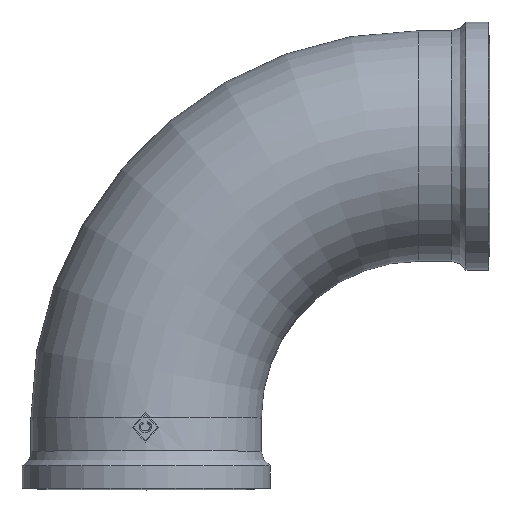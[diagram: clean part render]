
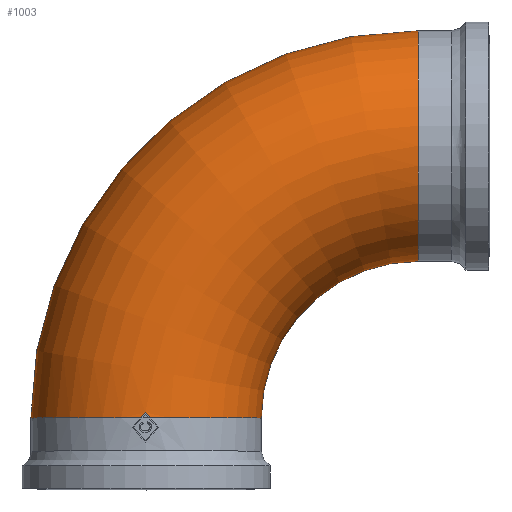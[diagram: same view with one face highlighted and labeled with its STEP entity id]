
A CAD part, top view. The second image highlights one B-rep face of the part: STEP entity #1003.
In plain terms, the highlighted toroidal (fillet/blend) face has major radius 80.7 mm and minor radius 34.2 mm.
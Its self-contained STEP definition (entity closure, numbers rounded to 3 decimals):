
#351=CARTESIAN_POINT('',(1.18,21.3,34.18));
#352=VERTEX_POINT('',#351);
#360=CARTESIAN_POINT('',(-0.239,22.877,34.199));
#361=VERTEX_POINT('',#360);
#362=CARTESIAN_POINT('',(-0.239,22.877,34.199));
#363=CARTESIAN_POINT('',(0.036,22.572,34.201));
#364=CARTESIAN_POINT('',(0.307,22.27,34.2));
#365=CARTESIAN_POINT('',(0.585,21.962,34.195));
#366=CARTESIAN_POINT('',(0.782,21.743,34.192));
#367=CARTESIAN_POINT('',(0.98,21.522,34.187));
#368=CARTESIAN_POINT('',(1.18,21.3,34.18));
#369=B_SPLINE_CURVE_WITH_KNOTS('',3,(#362,#363,#364,#365,#366,#367,#368),.UNSPECIFIED.,.F.,.U.,(4,3,4),(38.941,39.064,39.15),.UNSPECIFIED.);
#370=EDGE_CURVE('',#361,#352,#369,.T.);
#389=CARTESIAN_POINT('',(-1.658,21.3,34.16));
#390=VERTEX_POINT('',#389);
#391=CARTESIAN_POINT('',(-1.658,21.3,34.16));
#392=CARTESIAN_POINT('',(-1.177,21.834,34.183));
#393=CARTESIAN_POINT('',(-0.704,22.36,34.196));
#394=CARTESIAN_POINT('',(-0.239,22.877,34.199));
#395=B_SPLINE_CURVE_WITH_KNOTS('',3,(#391,#392,#393,#394),.UNSPECIFIED.,.F.,.U.,(4,4),(38.344,38.551),.UNSPECIFIED.);
#396=EDGE_CURVE('',#390,#361,#395,.T.);
#976=CARTESIAN_POINT('',(80.7,21.3,0.0));
#977=DIRECTION('',(0.0,0.0,-1.0));
#978=DIRECTION('',(-1.0,0.0,0.0));
#979=AXIS2_PLACEMENT_3D('',#976,#977,#978);
#980=TOROIDAL_SURFACE('',#979,80.7,34.2);
#981=ORIENTED_EDGE('',*,*,#370,.T.);
#982=CARTESIAN_POINT('',(0.0,21.3,0.0));
#983=DIRECTION('',(0.0,-1.0,0.0));
#984=DIRECTION('',(1.0,0.0,0.0));
#985=AXIS2_PLACEMENT_3D('',#982,#983,#984);
#986=CIRCLE('',#985,34.2);
#987=EDGE_CURVE('',#390,#352,#986,.T.);
#988=ORIENTED_EDGE('',*,*,#987,.F.);
#989=ORIENTED_EDGE('',*,*,#396,.T.);
#990=EDGE_LOOP('',(#981,#988,#989));
#991=FACE_OUTER_BOUND('',#990,.T.);
#992=CARTESIAN_POINT('',(80.7,136.2,0.));
#993=VERTEX_POINT('',#992);
#994=CARTESIAN_POINT('',(80.7,102.0,0.0));
#995=DIRECTION('',(-1.0,0.0,0.0));
#996=DIRECTION('',(0.0,-1.0,0.0));
#997=AXIS2_PLACEMENT_3D('',#994,#995,#996);
#998=CIRCLE('',#997,34.2);
#999=EDGE_CURVE('',#993,#993,#998,.T.);
#1000=ORIENTED_EDGE('',*,*,#999,.T.);
#1001=EDGE_LOOP('',(#1000));
#1002=FACE_BOUND('',#1001,.T.);
#1003=ADVANCED_FACE('',(#991,#1002),#980,.T.);
